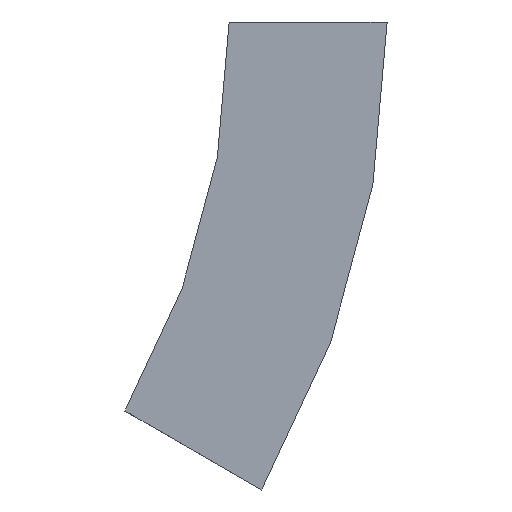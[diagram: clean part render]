
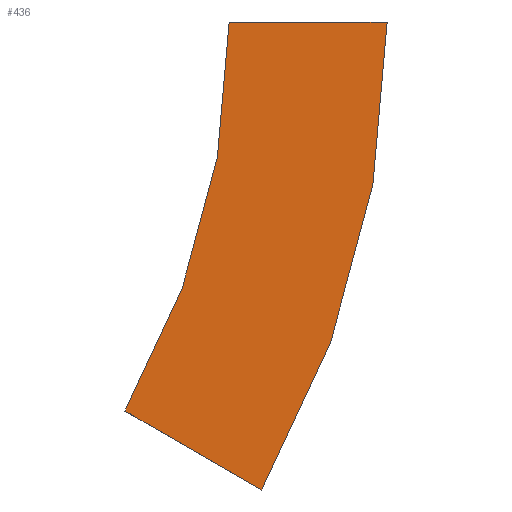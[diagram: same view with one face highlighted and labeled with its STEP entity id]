
A CAD part, left-side view. The second image highlights one B-rep face of the part: STEP entity #436.
In plain terms, the highlighted planar face has unit normal (-1, 0, 0).
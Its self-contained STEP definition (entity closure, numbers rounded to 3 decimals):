
#7 = DIRECTION ( 'NONE',  ( 0., 0., 1. ) ) ;
#10 = EDGE_CURVE ( 'NONE', #79, #305, #14, .T. ) ;
#14 = LINE ( 'NONE', #211, #415 ) ;
#19 = CIRCLE ( 'NONE', #530, 98.5 ) ;
#29 = CARTESIAN_POINT ( 'NONE',  ( -153.5, -4.124, -59.25 ) ) ;
#62 = CARTESIAN_POINT ( 'NONE',  ( -153.5, 98.5, 0. ) ) ;
#79 = VERTEX_POINT ( 'NONE', #111 ) ;
#88 = CARTESIAN_POINT ( 'NONE',  ( -153.5, -4.124, -59.25 ) ) ;
#111 = CARTESIAN_POINT ( 'NONE',  ( -153.5, 0., 0. ) ) ;
#118 = DIRECTION ( 'NONE',  ( 0., -1., 0. ) ) ;
#128 = EDGE_CURVE ( 'NONE', #324, #292, #218, .T. ) ;
#139 = CARTESIAN_POINT ( 'NONE',  ( -153.5, -20., 0. ) ) ;
#152 = VECTOR ( 'NONE', #176, 1000. ) ;
#153 = DIRECTION ( 'NONE',  ( 1., 0., 0. ) ) ;
#176 = DIRECTION ( 'NONE',  ( 0., 0.866, 0.5 ) ) ;
#177 = CIRCLE ( 'NONE', #253, 118.5 ) ;
#211 = CARTESIAN_POINT ( 'NONE',  ( -153.5, 0., 0. ) ) ;
#218 = LINE ( 'NONE', #29, #152 ) ;
#219 = ORIENTED_EDGE ( 'NONE', *, *, #373, .F. ) ;
#245 = CARTESIAN_POINT ( 'NONE',  ( -153.5, 98.5, 0. ) ) ;
#253 = AXIS2_PLACEMENT_3D ( 'NONE', #245, #153, #347 ) ;
#258 = ORIENTED_EDGE ( 'NONE', *, *, #10, .F. ) ;
#292 = VERTEX_POINT ( 'NONE', #463 ) ;
#305 = VERTEX_POINT ( 'NONE', #139 ) ;
#307 = DIRECTION ( 'NONE',  ( -1., 0., 0. ) ) ;
#324 = VERTEX_POINT ( 'NONE', #88 ) ;
#334 = ORIENTED_EDGE ( 'NONE', *, *, #579, .F. ) ;
#342 = DIRECTION ( 'NONE',  ( -1., 0., 0. ) ) ;
#344 = EDGE_LOOP ( 'NONE', ( #401, #334, #258, #219 ) ) ;
#347 = DIRECTION ( 'NONE',  ( 0., 0., -1. ) ) ;
#373 = EDGE_CURVE ( 'NONE', #292, #79, #19, .T. ) ;
#400 = AXIS2_PLACEMENT_3D ( 'NONE', #563, #342, #551 ) ;
#401 = ORIENTED_EDGE ( 'NONE', *, *, #128, .F. ) ;
#415 = VECTOR ( 'NONE', #118, 1000. ) ;
#429 = FACE_OUTER_BOUND ( 'NONE', #344, .T. ) ;
#436 = ADVANCED_FACE ( 'NONE', ( #429 ), #605, .T. ) ;
#463 = CARTESIAN_POINT ( 'NONE',  ( -153.5, 13.196, -49.25 ) ) ;
#530 = AXIS2_PLACEMENT_3D ( 'NONE', #62, #307, #7 ) ;
#551 = DIRECTION ( 'NONE',  ( 0., 0., 1. ) ) ;
#563 = CARTESIAN_POINT ( 'NONE',  ( -153.5, 98.5, 0. ) ) ;
#579 = EDGE_CURVE ( 'NONE', #305, #324, #177, .T. ) ;
#605 = PLANE ( 'NONE',  #400 ) ;
